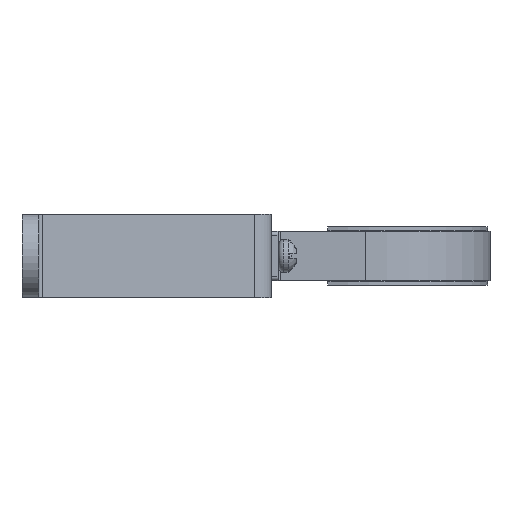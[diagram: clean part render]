
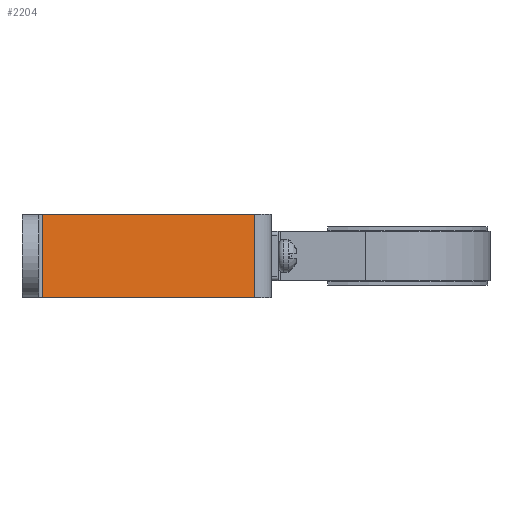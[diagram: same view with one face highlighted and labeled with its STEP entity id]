
A CAD part, front view. The second image highlights one B-rep face of the part: STEP entity #2204.
In plain terms, the highlighted planar face has unit normal (0.174, -0.985, 0).
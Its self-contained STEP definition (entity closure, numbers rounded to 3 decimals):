
#135=PLANE('',#2425);
#236=FACE_OUTER_BOUND('',#356,.T.);
#356=EDGE_LOOP('',(#1883,#1884,#1885,#1886));
#506=LINE('',#3925,#682);
#521=LINE('',#3973,#697);
#525=LINE('',#3986,#701);
#526=LINE('',#3988,#702);
#682=VECTOR('',#2879,10.);
#697=VECTOR('',#2920,10.);
#701=VECTOR('',#2932,10.);
#702=VECTOR('',#2935,10.);
#1016=VERTEX_POINT('',#3922);
#1017=VERTEX_POINT('',#3924);
#1036=VERTEX_POINT('',#3970);
#1037=VERTEX_POINT('',#3972);
#1309=EDGE_CURVE('',#1016,#1017,#506,.T.);
#1334=EDGE_CURVE('',#1036,#1037,#521,.T.);
#1341=EDGE_CURVE('',#1017,#1036,#525,.T.);
#1342=EDGE_CURVE('',#1016,#1037,#526,.T.);
#1883=ORIENTED_EDGE('',*,*,#1342,.T.);
#1884=ORIENTED_EDGE('',*,*,#1334,.F.);
#1885=ORIENTED_EDGE('',*,*,#1341,.F.);
#1886=ORIENTED_EDGE('',*,*,#1309,.F.);
#2204=ADVANCED_FACE('',(#236),#135,.T.);
#2425=AXIS2_PLACEMENT_3D('',#3987,#2933,#2934);
#2879=DIRECTION('',(-0.985,-0.174,0.));
#2920=DIRECTION('',(0.985,0.174,0.));
#2932=DIRECTION('',(0.,0.,1.));
#2933=DIRECTION('center_axis',(0.174,-0.985,0.));
#2934=DIRECTION('ref_axis',(0.985,0.174,0.));
#2935=DIRECTION('',(0.,0.,1.));
#3922=CARTESIAN_POINT('',(-24.882,-57.424,-10.));
#3924=CARTESIAN_POINT('',(-75.924,-66.424,-10.));
#3925=CARTESIAN_POINT('',(-75.924,-66.424,-10.));
#3970=CARTESIAN_POINT('',(-75.924,-66.424,10.));
#3972=CARTESIAN_POINT('',(-24.882,-57.424,10.));
#3973=CARTESIAN_POINT('',(-75.924,-66.424,10.));
#3986=CARTESIAN_POINT('',(-75.924,-66.424,0.));
#3987=CARTESIAN_POINT('Origin',(-75.924,-66.424,0.));
#3988=CARTESIAN_POINT('',(-24.882,-57.424,0.));
